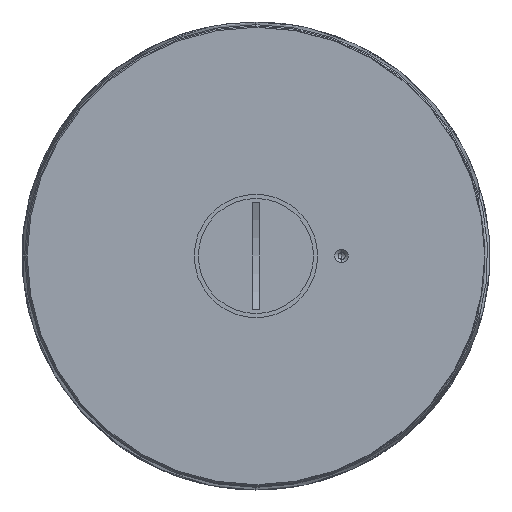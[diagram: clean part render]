
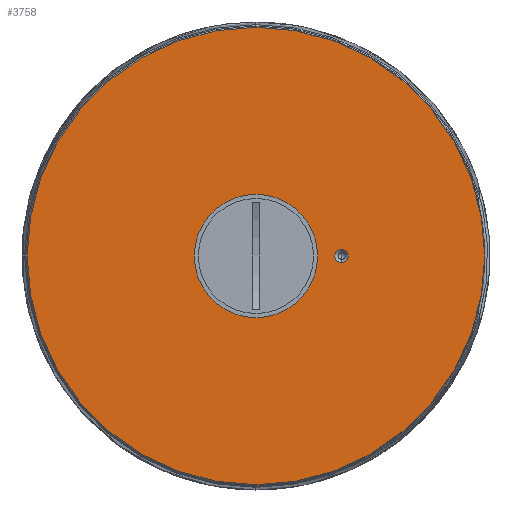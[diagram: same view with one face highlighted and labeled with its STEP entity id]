
A CAD part, front view. The second image highlights one B-rep face of the part: STEP entity #3758.
In plain terms, the highlighted planar face has unit normal (0, -1, 0).
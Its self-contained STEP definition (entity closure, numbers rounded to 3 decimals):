
#176 = EDGE_CURVE ( 'NONE', #1627, #7677, #6298, .T. ) ;
#217 = EDGE_LOOP ( 'NONE', ( #6944, #5105 ) ) ;
#247 = DIRECTION ( 'NONE',  ( 0., 1., 0. ) ) ;
#285 = DIRECTION ( 'NONE',  ( 0., 0., -1. ) ) ;
#371 = DIRECTION ( 'NONE',  ( 0., 1., 0. ) ) ;
#522 = DIRECTION ( 'NONE',  ( 0., 1., 0. ) ) ;
#541 = EDGE_CURVE ( 'NONE', #8195, #2527, #2669, .T. ) ;
#588 = CARTESIAN_POINT ( 'NONE',  ( 20.83, 0., 1.64 ) ) ;
#765 = CARTESIAN_POINT ( 'NONE',  ( 0., 0., 55.625 ) ) ;
#1082 = ORIENTED_EDGE ( 'NONE', *, *, #6085, .F. ) ;
#1149 = DIRECTION ( 'NONE',  ( 0., -1., 0. ) ) ;
#1627 = VERTEX_POINT ( 'NONE', #2991 ) ;
#1731 = FACE_OUTER_BOUND ( 'NONE', #217, .T. ) ;
#1910 = FACE_BOUND ( 'NONE', #6627, .T. ) ;
#2093 = AXIS2_PLACEMENT_3D ( 'NONE', #3857, #371, #3020 ) ;
#2316 = DIRECTION ( 'NONE',  ( 0., 1., 0. ) ) ;
#2525 = CARTESIAN_POINT ( 'NONE',  ( 0., 0., 0. ) ) ;
#2527 = VERTEX_POINT ( 'NONE', #588 ) ;
#2669 = CIRCLE ( 'NONE', #9026, 1.64 ) ;
#2763 = DIRECTION ( 'NONE',  ( 0., 0., 1. ) ) ;
#2832 = CARTESIAN_POINT ( 'NONE',  ( 0., 0., 0. ) ) ;
#2934 = AXIS2_PLACEMENT_3D ( 'NONE', #5263, #7007, #2763 ) ;
#2991 = CARTESIAN_POINT ( 'NONE',  ( 0., 0., 15. ) ) ;
#3020 = DIRECTION ( 'NONE',  ( 0., 0., 1. ) ) ;
#3041 = AXIS2_PLACEMENT_3D ( 'NONE', #6314, #1149, #285 ) ;
#3169 = CARTESIAN_POINT ( 'NONE',  ( 20.83, 0., -1.64 ) ) ;
#3414 = EDGE_LOOP ( 'NONE', ( #5767, #6597 ) ) ;
#3519 = AXIS2_PLACEMENT_3D ( 'NONE', #2832, #247, #8268 ) ;
#3602 = ORIENTED_EDGE ( 'NONE', *, *, #176, .F. ) ;
#3739 = CIRCLE ( 'NONE', #2093, 55.625 ) ;
#3758 = ADVANCED_FACE ( 'NONE', ( #7063, #1910, #1731 ), #9683, .F. ) ;
#3857 = CARTESIAN_POINT ( 'NONE',  ( 0., 0., 0. ) ) ;
#3923 = EDGE_CURVE ( 'NONE', #2527, #8195, #9889, .T. ) ;
#4014 = CARTESIAN_POINT ( 'NONE',  ( 20.83, 0., 0. ) ) ;
#4972 = VERTEX_POINT ( 'NONE', #6401 ) ;
#5105 = ORIENTED_EDGE ( 'NONE', *, *, #9661, .F. ) ;
#5263 = CARTESIAN_POINT ( 'NONE',  ( 0., 0., 0. ) ) ;
#5518 = CIRCLE ( 'NONE', #6574, 15. ) ;
#5767 = ORIENTED_EDGE ( 'NONE', *, *, #541, .T. ) ;
#5898 = DIRECTION ( 'NONE',  ( 0., 0., 1. ) ) ;
#6085 = EDGE_CURVE ( 'NONE', #7677, #1627, #5518, .T. ) ;
#6101 = CARTESIAN_POINT ( 'NONE',  ( 0., 0., -15. ) ) ;
#6298 = CIRCLE ( 'NONE', #3041, 15. ) ;
#6314 = CARTESIAN_POINT ( 'NONE',  ( 0., 0., 0. ) ) ;
#6401 = CARTESIAN_POINT ( 'NONE',  ( 0., 0., -55.625 ) ) ;
#6574 = AXIS2_PLACEMENT_3D ( 'NONE', #2525, #7566, #8435 ) ;
#6597 = ORIENTED_EDGE ( 'NONE', *, *, #3923, .T. ) ;
#6627 = EDGE_LOOP ( 'NONE', ( #1082, #3602 ) ) ;
#6732 = CARTESIAN_POINT ( 'NONE',  ( 20.83, 0., 0. ) ) ;
#6855 = EDGE_CURVE ( 'NONE', #4972, #7193, #3739, .T. ) ;
#6944 = ORIENTED_EDGE ( 'NONE', *, *, #6855, .F. ) ;
#7007 = DIRECTION ( 'NONE',  ( 0., 1., 0. ) ) ;
#7063 = FACE_BOUND ( 'NONE', #3414, .T. ) ;
#7193 = VERTEX_POINT ( 'NONE', #765 ) ;
#7566 = DIRECTION ( 'NONE',  ( 0., -1., 0. ) ) ;
#7648 = AXIS2_PLACEMENT_3D ( 'NONE', #4014, #2316, #9212 ) ;
#7677 = VERTEX_POINT ( 'NONE', #6101 ) ;
#8195 = VERTEX_POINT ( 'NONE', #3169 ) ;
#8268 = DIRECTION ( 'NONE',  ( 0., 0., 1. ) ) ;
#8409 = CIRCLE ( 'NONE', #3519, 55.625 ) ;
#8435 = DIRECTION ( 'NONE',  ( 0., 0., -1. ) ) ;
#9026 = AXIS2_PLACEMENT_3D ( 'NONE', #6732, #522, #5898 ) ;
#9212 = DIRECTION ( 'NONE',  ( 0., 0., 1. ) ) ;
#9661 = EDGE_CURVE ( 'NONE', #7193, #4972, #8409, .T. ) ;
#9683 = PLANE ( 'NONE',  #2934 ) ;
#9889 = CIRCLE ( 'NONE', #7648, 1.64 ) ;
